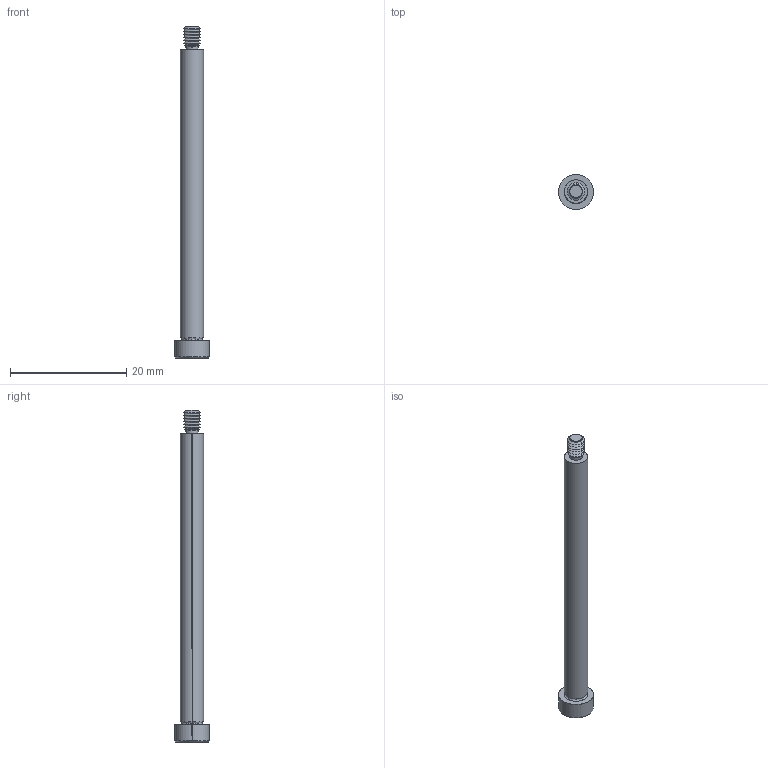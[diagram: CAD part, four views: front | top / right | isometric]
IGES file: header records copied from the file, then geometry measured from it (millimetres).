
Start section: SolidWorks IGES file using analytic representation for surfaces
Global section: file name: C:\Users\IanO\Documents\Temp Folder\GENERAL\SCREW REVISION\P0130_v2\P0130.T5_v2_20220106_IGES\P0130.040-050-T5.igs; native system: SolidWorks 2019; preprocessor: SolidWorks 2019; author: IanO; date: 220106.221123; units: millimetre
Bounding box: 6 x 6 x 57 mm (x, y, z)
Surface area: 813.2 mm2 (no closed solid volume)
Topology: 0 solids, 0 shells, 68 faces, 520 edges, 518 vertices
Faces by surface type: revolution 48, bspline 20
